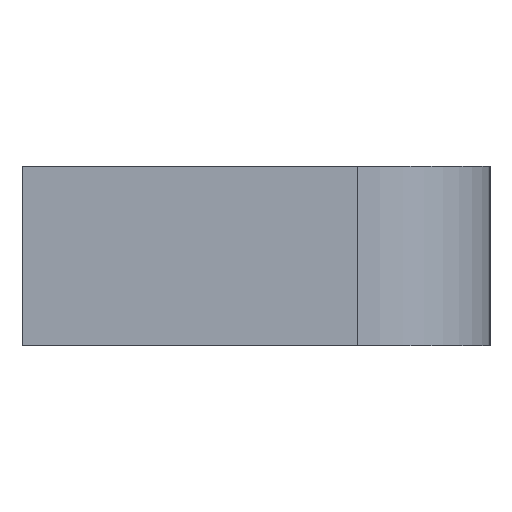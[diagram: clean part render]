
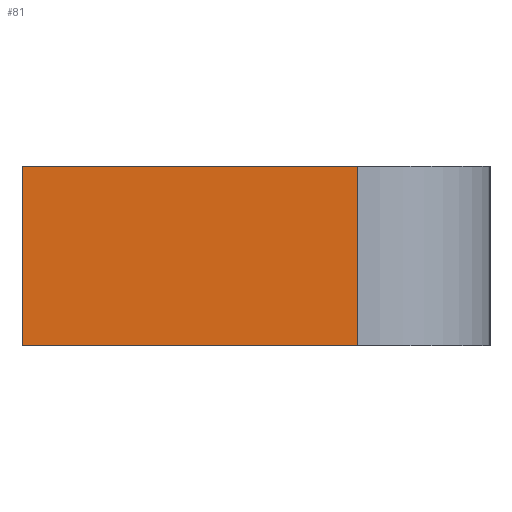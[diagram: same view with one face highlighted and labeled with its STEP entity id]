
A CAD part, left-side view. The second image highlights one B-rep face of the part: STEP entity #81.
In plain terms, the highlighted planar face has unit normal (-1, 0, 0).
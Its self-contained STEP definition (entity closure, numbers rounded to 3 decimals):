
#81 = ADVANCED_FACE( '', ( #171 ), #172, .F. );
#171 = FACE_OUTER_BOUND( '', #275, .T. );
#172 = PLANE( '', #276 );
#275 = EDGE_LOOP( '', ( #382, #383, #384, #385 ) );
#276 = AXIS2_PLACEMENT_3D( '', #386, #387, #388 );
#382 = ORIENTED_EDGE( '', *, *, #614, .T. );
#383 = ORIENTED_EDGE( '', *, *, #602, .F. );
#384 = ORIENTED_EDGE( '', *, *, #615, .F. );
#385 = ORIENTED_EDGE( '', *, *, #616, .T. );
#386 = CARTESIAN_POINT( '', ( -7., 0., 7.1 ) );
#387 = DIRECTION( '', ( 1., 0., 0. ) );
#388 = DIRECTION( '', ( 0., 0., -1. ) );
#602 = EDGE_CURVE( '', #696, #691, #698, .T. );
#614 = EDGE_CURVE( '', #718, #691, #719, .T. );
#615 = EDGE_CURVE( '', #720, #696, #721, .T. );
#616 = EDGE_CURVE( '', #720, #718, #722, .T. );
#691 = VERTEX_POINT( '', #827 );
#696 = VERTEX_POINT( '', #833 );
#698 = LINE( '', #835, #836 );
#718 = VERTEX_POINT( '', #864 );
#719 = LINE( '', #865, #866 );
#720 = VERTEX_POINT( '', #867 );
#721 = LINE( '', #868, #869 );
#722 = LINE( '', #870, #871 );
#827 = CARTESIAN_POINT( '', ( -7., -26.5, -7.1 ) );
#833 = CARTESIAN_POINT( '', ( -7., -26.5, 7.1 ) );
#835 = CARTESIAN_POINT( '', ( -7., -26.5, 7.1 ) );
#836 = VECTOR( '', #1021, 1000. );
#864 = CARTESIAN_POINT( '', ( -7., 0., -7.1 ) );
#865 = CARTESIAN_POINT( '', ( -7., 0., -7.1 ) );
#866 = VECTOR( '', #1030, 1000. );
#867 = CARTESIAN_POINT( '', ( -7., 0., 7.1 ) );
#868 = CARTESIAN_POINT( '', ( -7., 0., 7.1 ) );
#869 = VECTOR( '', #1031, 1000. );
#870 = CARTESIAN_POINT( '', ( -7., 0., 7.1 ) );
#871 = VECTOR( '', #1032, 1000. );
#1021 = DIRECTION( '', ( 0., 0., -1. ) );
#1030 = DIRECTION( '', ( 0., -1., 0. ) );
#1031 = DIRECTION( '', ( 0., -1., 0. ) );
#1032 = DIRECTION( '', ( 0., 0., -1. ) );
